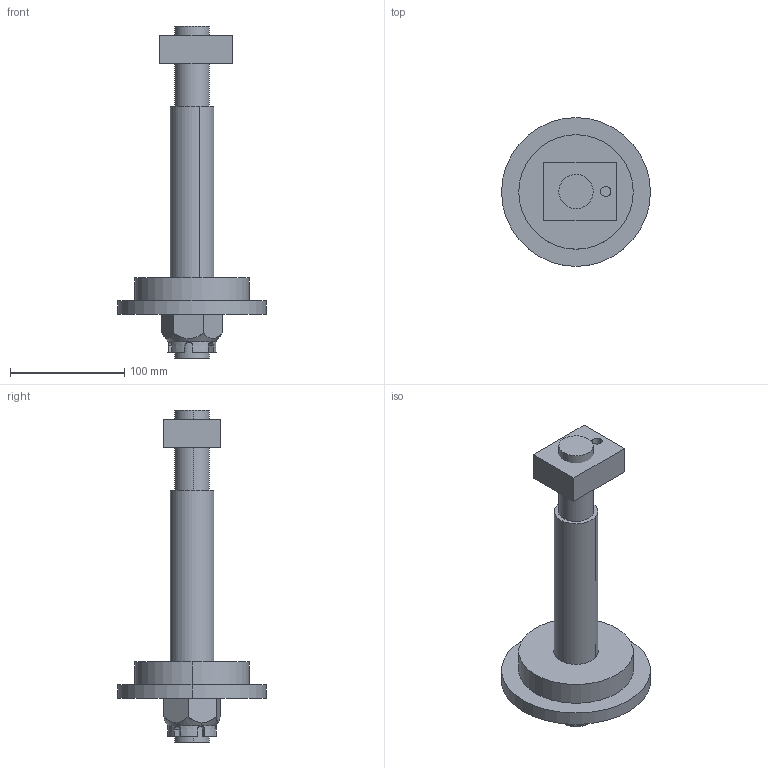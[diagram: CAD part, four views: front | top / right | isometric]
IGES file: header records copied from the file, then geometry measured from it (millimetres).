
Start section: START RECORD GO HERE.
Global section: file name: 740T-30.igs; native system: DASSAULT SYSTEMES CATIA V5 R20 - www.3ds.com; preprocessor: CATIA Version 5 Release 20 ; author: Utente; organization: NB04-ASUS; date: 20201027.200856; units: millimetre
Bounding box: 130 x 130 x 290 mm (x, y, z)
Surface area: 142956.6 mm2 (no closed solid volume)
Topology: 0 solids, 0 shells, 75 faces, 394 edges, 394 vertices
Faces by surface type: plane 39, revolution 36
